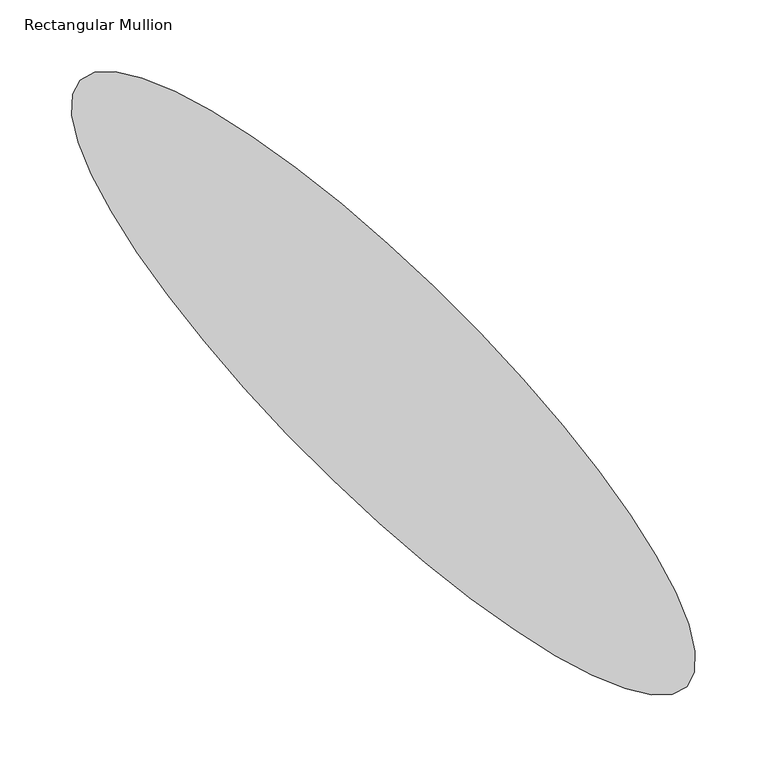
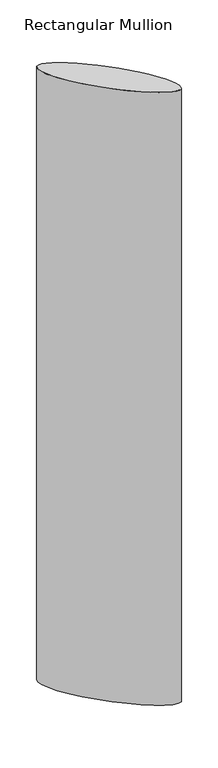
"""IFC4 building model written with IfcOpenShell, lengths in millimetres: member geometry, Rectangular Mullion : RSen_21_CWM_blade - wing 600 - 45° perforated_gen_duco projects."""

from ifc_helpers import new_model, si_unit, point, frame, origin, place, context, project, spatial, ellipse_curve, trimmed, source, transform, mapped, element, save
from ifc_brep_helpers import plane_surface, extruded_surface, advanced_brep


def rectangular_mullion_f0bcd2d9(model_context):
    return source(origin(), model_context, "Body", "AdvancedBrep", [
        advanced_brep(
        [(212.1320344, 42.8679656, 0.0), (-212.1320344, 467.1320344, 0.0), (212.1320344, 42.8679656, -3000.0), (-212.1320344, 467.1320344, -3000.0)],
        [
            (0, 1, ellipse_curve(frame((0.0, 255.0, 0.0), z_axis=(0.0, 0.0, 1.0000000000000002), x_axis=(-0.7071067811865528, 0.7071067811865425, 0.0)), 300.0, 73.0)),
            (1, 0, ellipse_curve(frame((0.0, 255.0, 0.0), z_axis=(0.0, 0.0, 1.0000000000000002), x_axis=(-0.7071067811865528, 0.7071067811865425, 0.0)), 300.0, 73.0)),
            (2, 3, ellipse_curve(frame((0.0, 255.0, -3000.0), z_axis=(0.0, 0.0, -1.0000000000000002), x_axis=(-0.7071067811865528, 0.7071067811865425, 0.0)), 300.0, 73.0)),
            (3, 2, ellipse_curve(frame((0.0, 255.0, -3000.0), z_axis=(0.0, 0.0, -1.0000000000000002), x_axis=(-0.7071067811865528, 0.7071067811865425, 0.0)), 300.0, 73.0)),
            (0, 2),
            (3, 1),
        ],
        [
            plane_surface(frame((0.0, -513.0422376, 0.0), z_axis=(0.0, 0.0, 1.0), x_axis=(-1.0, 0.0, 0.0))),
            plane_surface(frame((0.0, -513.0422376, -3000.0), z_axis=(0.0, 0.0, -1.0), x_axis=(-1.0, 0.0, 0.0))),
            extruded_surface(trimmed(ellipse_curve(frame((0.0, 255.0, -3000.0), z_axis=(0.0, 0.0, 1.0000000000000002), x_axis=(-0.7071067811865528, 0.7071067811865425, 0.0)), 300.0, 73.0), [point((212.1320344, 42.8679656, -3000.0))], [point((-212.1320344, 467.1320344, -3000.0))], True, "CARTESIAN"), (0.0, 0.0, 3000.0), 3000.0),
            extruded_surface(trimmed(ellipse_curve(frame((0.0, 255.0, -3000.0), z_axis=(0.0, 0.0, 1.0000000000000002), x_axis=(-0.7071067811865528, 0.7071067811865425, 0.0)), 300.0, 73.0), [point((-212.1320344, 467.1320344, -3000.0))], [point((212.1320344, 42.8679656, -3000.0))], True, "CARTESIAN"), (0.0, 0.0, 3000.0), 3000.0),
        ],
        [
            (0, [[1, 2]]),
            (1, [[3, 4]]),
            (2, [[-1, 5, -4, 6]]),
            (3, [[-2, -6, -3, -5]]),
        ],
    ),
    ])


if __name__ == "__main__":
    model = new_model("IFC4")
    model_context = context("Model", 3, world=origin())
    ifc_project = project(units=[si_unit("LENGTHUNIT", "METRE", prefix="MILLI")], contexts=[model_context])
    site = spatial("IfcSite", under=ifc_project)
    building = spatial("IfcBuilding", under=site)
    placement = place(None, origin())
    rectangular_mullion_shape = rectangular_mullion_f0bcd2d9(model_context)
    element("IfcMember", 1, ObjectType="Rectangular Mullion : RSen_21_CWM_blade - wing 600 - 45° perforated_gen_duco projects", at=placement, inside=building, context=model_context, shape_type="MappedRepresentation", body=[
        mapped(rectangular_mullion_shape, transform((0.0, 0.0, 0.0), x_axis=(1.0, 0.0, 0.0), y_axis=(0.0, 1.0, 0.0), z_axis=(0.0, 0.0, 1.0))),
    ])
    save(model, "model.ifc")
